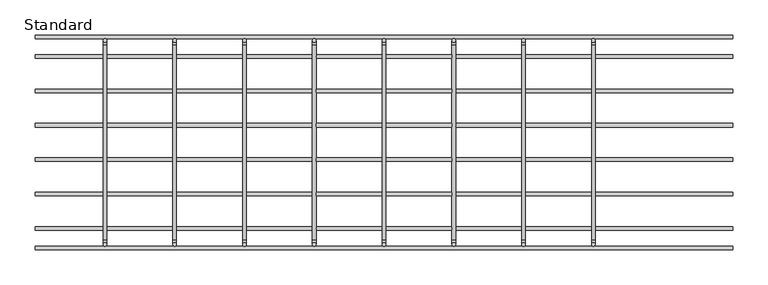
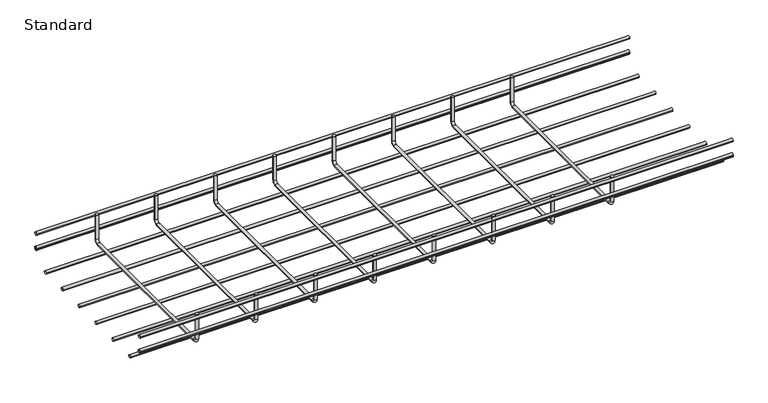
"""IFC4 building model written with IfcOpenShell, lengths in millimetres: cable carrier fitting geometry, CableTray_Atkore-Straight-Length : Standard."""

from ifc_helpers import new_model, si_unit, point, frame, frame_2d, origin, place, context, project, spatial, circle_curve, ellipse_curve, trimmed, segment, composite_curve, outline, extrude, source, transform, mapped, element, save
from ifc_brep_helpers import plane_surface, cylinder_surface, revolved_surface, advanced_brep


def standard_eb973696(model_context):
    return source(origin(), model_context, "Body", "SolidModel", [
        extrude(outline(composite_curve([segment(trimmed(circle_curve(frame_2d((73.4025, -25.9357812)), 2.54), [point((70.8625, -25.9357812))], [point((75.9425, -25.9357812))], False, "CARTESIAN"), True, "CONTINUOUS"), segment(trimmed(circle_curve(frame_2d((73.4025, -25.9357812)), 2.54), [point((75.9425, -25.9357812))], [point((70.8625, -25.9357812))], False, "CARTESIAN"), True, "CONTINUOUS")], self_intersect=False)), frame((0.0, 0.0, 0.0), z_axis=(1.0, 0.0, 0.0), x_axis=(0.0, 1.0, 0.0)), (0.0, 0.0, 1.0), 991.764),
        extrude(outline(composite_curve([segment(trimmed(circle_curve(frame_2d((24.4675, -25.9357812)), 2.54), [point((21.9275, -25.9357812))], [point((27.0075, -25.9357812))], False, "CARTESIAN"), True, "CONTINUOUS"), segment(trimmed(circle_curve(frame_2d((24.4675, -25.9357812)), 2.54), [point((27.0075, -25.9357812))], [point((21.9275, -25.9357812))], False, "CARTESIAN"), True, "CONTINUOUS")], self_intersect=False)), frame((0.0, 0.0, 0.0), z_axis=(1.0, 0.0, 0.0), x_axis=(0.0, 1.0, 0.0)), (0.0, 0.0, 1.0), 991.764),
        extrude(outline(composite_curve([segment(trimmed(circle_curve(frame_2d((-24.4675, -25.9357812)), 2.54), [point((-27.0075, -25.9357812))], [point((-21.9275, -25.9357812))], False, "CARTESIAN"), True, "CONTINUOUS"), segment(trimmed(circle_curve(frame_2d((-24.4675, -25.9357812)), 2.54), [point((-21.9275, -25.9357812))], [point((-27.0075, -25.9357812))], False, "CARTESIAN"), True, "CONTINUOUS")], self_intersect=False)), frame((0.0, 0.0, 0.0), z_axis=(1.0, 0.0, 0.0), x_axis=(0.0, 1.0, 0.0)), (0.0, 0.0, 1.0), 991.764),
        extrude(outline(composite_curve([segment(trimmed(circle_curve(frame_2d((-73.4025, -25.9357812)), 2.54), [point((-75.9425, -25.9357812))], [point((-70.8625, -25.9357812))], False, "CARTESIAN"), True, "CONTINUOUS"), segment(trimmed(circle_curve(frame_2d((-73.4025, -25.9357812)), 2.54), [point((-70.8625, -25.9357812))], [point((-75.9425, -25.9357812))], False, "CARTESIAN"), True, "CONTINUOUS")], self_intersect=False)), frame((0.0, 0.0, 0.0), z_axis=(1.0, 0.0, 0.0), x_axis=(0.0, 1.0, 0.0)), (0.0, 0.0, 1.0), 991.764),
        advanced_brep(
        [(96.6364, -144.88, 28.4757813), (101.7164, -144.88, 28.4757813), (96.6364, -144.88, -14.8133594), (101.7164, -144.88, -14.8133594), (101.7164, -138.8375781, -20.8557812), (96.6364, -138.8375781, -20.8557812), (96.6364, 138.53, -20.8557812), (101.7164, 138.53, -20.8557812), (101.7164, 144.88, -14.5057812), (96.6364, 144.88, -14.5057812), (96.6364, 144.88, 28.4757813), (101.7164, 144.88, 28.4757813)],
        [
            (0, 1, circle_curve(frame((99.1764, -144.88, 28.4757813), z_axis=(0.0, 0.0, 1.0), x_axis=(1.0, 0.0, 0.0)), 2.54)),
            (1, 0, circle_curve(frame((99.1764, -144.88, 28.4757813), z_axis=(0.0, 0.0, 1.0), x_axis=(1.0, 0.0, 0.0)), 2.54)),
            (0, 2),
            (2, 3, circle_curve(frame((99.1764, -144.88, -14.8133594), z_axis=(0.0, 0.0, 1.0), x_axis=(1.0, 0.0, 0.0)), 2.54)),
            (3, 1),
            (3, 2, circle_curve(frame((99.1764, -144.88, -14.8133594), z_axis=(0.0, 0.0, 1.0), x_axis=(1.0, 0.0, 0.0)), 2.54)),
            (4, 3, circle_curve(frame((101.7164, -138.8375781, -14.8133594), z_axis=(-1.0, 0.0, 0.0), x_axis=(0.0, -1.0, 0.0)), 6.0424219)),
            (2, 5, circle_curve(frame((96.6364, -138.8375781, -14.8133594), z_axis=(1.0, 0.0, 0.0), x_axis=(0.0, -1.0, 0.0)), 6.0424219)),
            (5, 4, circle_curve(frame((99.1764, -138.8375781, -20.8557812), z_axis=(0.0, -1.0, 0.0), x_axis=(1.0, 0.0, 0.0)), 2.54)),
            (4, 5, circle_curve(frame((99.1764, -138.8375781, -20.8557812), z_axis=(0.0, -1.0, 0.0), x_axis=(1.0, 0.0, 0.0)), 2.54)),
            (5, 6),
            (6, 7, circle_curve(frame((99.1764, 138.53, -20.8557812), z_axis=(0.0, -1.0, 0.0), x_axis=(1.0, 0.0, 0.0)), 2.54)),
            (7, 4),
            (7, 6, circle_curve(frame((99.1764, 138.53, -20.8557812), z_axis=(0.0, -1.0, 0.0), x_axis=(1.0, 0.0, 0.0)), 2.54)),
            (8, 7, circle_curve(frame((101.7164, 138.53, -14.5057812), z_axis=(-1.0, 0.0, 0.0), x_axis=(0.0, 0.0, -1.0)), 6.35)),
            (6, 9, circle_curve(frame((96.6364, 138.53, -14.5057812), z_axis=(1.0, 0.0, 0.0), x_axis=(0.0, 0.0, -1.0)), 6.35)),
            (9, 8, circle_curve(frame((99.1764, 144.88, -14.5057812), z_axis=(0.0, 0.0, -1.0), x_axis=(1.0, 0.0, 0.0)), 2.54)),
            (8, 9, circle_curve(frame((99.1764, 144.88, -14.5057812), z_axis=(0.0, 0.0, -1.0), x_axis=(1.0, 0.0, 0.0)), 2.54)),
            (10, 11, circle_curve(frame((99.1764, 144.88, 28.4757813), z_axis=(0.0, 0.0, 1.0), x_axis=(1.0, 0.0, 0.0)), 2.54)),
            (11, 10, circle_curve(frame((99.1764, 144.88, 28.4757813), z_axis=(0.0, 0.0, 1.0), x_axis=(1.0, 0.0, 0.0)), 2.54)),
            (9, 10),
            (11, 8),
        ],
        [
            plane_surface(frame((99.1764, -144.88, 28.4757813), z_axis=(0.0, 0.0, 1.0), x_axis=(1.0, 0.0, 0.0))),
            cylinder_surface(frame((99.1764, -144.88, 28.4757813), z_axis=(0.0, 0.0, 1.0), x_axis=(1.0, 0.0, 0.0)), 2.54),
            revolved_surface(trimmed(ellipse_curve(frame((99.1764, -144.88, -14.8133594), z_axis=(0.0, 0.0, 1.0), x_axis=(1.0, 0.0, 0.0)), 2.54, 2.54), [point((96.6364, -144.88, -14.8133594))], [point((101.7164, -144.88, -14.8133594))], True, "CARTESIAN"), (99.1764, -138.8375781, -14.8133594), (1.0, 0.0, 0.0)),
            revolved_surface(trimmed(ellipse_curve(frame((99.1764, -144.88, -14.8133594), z_axis=(0.0, 0.0, 1.0), x_axis=(1.0, 0.0, 0.0)), 2.54, 2.54), [point((101.7164, -144.88, -14.8133594))], [point((96.6364, -144.88, -14.8133594))], True, "CARTESIAN"), (99.1764, -138.8375781, -14.8133594), (1.0, 0.0, 0.0)),
            cylinder_surface(frame((99.1764, -138.8375781, -20.8557812), z_axis=(0.0, -1.0, 0.0), x_axis=(1.0, 0.0, 0.0)), 2.54),
            revolved_surface(trimmed(ellipse_curve(frame((99.1764, 138.53, -20.8557812), z_axis=(0.0, -1.0, 0.0), x_axis=(1.0, 0.0, 0.0)), 2.54, 2.54), [point((96.6364, 138.53, -20.8557812))], [point((101.7164, 138.53, -20.8557812))], True, "CARTESIAN"), (99.1764, 138.53, -14.5057812), (1.0, 0.0, 0.0)),
            revolved_surface(trimmed(ellipse_curve(frame((99.1764, 138.53, -20.8557812), z_axis=(0.0, -1.0, 0.0), x_axis=(1.0, 0.0, 0.0)), 2.54, 2.54), [point((101.7164, 138.53, -20.8557812))], [point((96.6364, 138.53, -20.8557812))], True, "CARTESIAN"), (99.1764, 138.53, -14.5057812), (1.0, 0.0, 0.0)),
            plane_surface(frame((99.1764, 144.88, 28.4757813), z_axis=(0.0, 0.0, 1.0), x_axis=(1.0, 0.0, 0.0))),
            cylinder_surface(frame((99.1764, 144.88, -14.5057812), z_axis=(0.0, 0.0, -1.0), x_axis=(1.0, 0.0, 0.0)), 2.54),
        ],
        [
            (0, [[1, 2]]),
            (1, [[-1, 3, 4, 5]]),
            (1, [[-2, -5, 6, -3]]),
            (2, [[7, -4, 8, 9]]),
            (3, [[-8, -6, -7, 10]]),
            (4, [[-9, 11, 12, 13]]),
            (4, [[-10, -13, 14, -11]]),
            (5, [[15, -12, 16, 17]]),
            (6, [[-16, -14, -15, 18]]),
            (7, [[19, 20]]),
            (8, [[-17, 21, -20, 22]]),
            (8, [[-18, -22, -19, -21]]),
        ],
    ),
        advanced_brep(
        [(195.8128, -144.88, 28.4757813), (200.8928, -144.88, 28.4757813), (195.8128, -144.88, -14.8133594), (200.8928, -144.88, -14.8133594), (200.8928, -138.8375781, -20.8557812), (195.8128, -138.8375781, -20.8557812), (195.8128, 138.53, -20.8557812), (200.8928, 138.53, -20.8557812), (200.8928, 144.88, -14.5057812), (195.8128, 144.88, -14.5057812), (195.8128, 144.88, 28.4757813), (200.8928, 144.88, 28.4757813)],
        [
            (0, 1, circle_curve(frame((198.3528, -144.88, 28.4757813), z_axis=(0.0, 0.0, 1.0), x_axis=(1.0, 0.0, 0.0)), 2.54)),
            (1, 0, circle_curve(frame((198.3528, -144.88, 28.4757813), z_axis=(0.0, 0.0, 1.0), x_axis=(1.0, 0.0, 0.0)), 2.54)),
            (0, 2),
            (2, 3, circle_curve(frame((198.3528, -144.88, -14.8133594), z_axis=(0.0, 0.0, 1.0), x_axis=(1.0, 0.0, 0.0)), 2.54)),
            (3, 1),
            (3, 2, circle_curve(frame((198.3528, -144.88, -14.8133594), z_axis=(0.0, 0.0, 1.0), x_axis=(1.0, 0.0, 0.0)), 2.54)),
            (4, 3, circle_curve(frame((200.8928, -138.8375781, -14.8133594), z_axis=(-1.0, 0.0, 0.0), x_axis=(0.0, -1.0, 0.0)), 6.0424219)),
            (2, 5, circle_curve(frame((195.8128, -138.8375781, -14.8133594), z_axis=(1.0, 0.0, 0.0), x_axis=(0.0, -1.0, 0.0)), 6.0424219)),
            (5, 4, circle_curve(frame((198.3528, -138.8375781, -20.8557812), z_axis=(0.0, -1.0, 0.0), x_axis=(1.0, 0.0, 0.0)), 2.54)),
            (4, 5, circle_curve(frame((198.3528, -138.8375781, -20.8557812), z_axis=(0.0, -1.0, 0.0), x_axis=(1.0, 0.0, 0.0)), 2.54)),
            (5, 6),
            (6, 7, circle_curve(frame((198.3528, 138.53, -20.8557812), z_axis=(0.0, -1.0, 0.0), x_axis=(1.0, 0.0, 0.0)), 2.54)),
            (7, 4),
            (7, 6, circle_curve(frame((198.3528, 138.53, -20.8557812), z_axis=(0.0, -1.0, 0.0), x_axis=(1.0, 0.0, 0.0)), 2.54)),
            (8, 7, circle_curve(frame((200.8928, 138.53, -14.5057812), z_axis=(-1.0, 0.0, 0.0), x_axis=(0.0, 0.0, -1.0)), 6.35)),
            (6, 9, circle_curve(frame((195.8128, 138.53, -14.5057812), z_axis=(1.0, 0.0, 0.0), x_axis=(0.0, 0.0, -1.0)), 6.35)),
            (9, 8, circle_curve(frame((198.3528, 144.88, -14.5057812), z_axis=(0.0, 0.0, -1.0), x_axis=(1.0, 0.0, 0.0)), 2.54)),
            (8, 9, circle_curve(frame((198.3528, 144.88, -14.5057812), z_axis=(0.0, 0.0, -1.0), x_axis=(1.0, 0.0, 0.0)), 2.54)),
            (10, 11, circle_curve(frame((198.3528, 144.88, 28.4757813), z_axis=(0.0, 0.0, 1.0), x_axis=(1.0, 0.0, 0.0)), 2.54)),
            (11, 10, circle_curve(frame((198.3528, 144.88, 28.4757813), z_axis=(0.0, 0.0, 1.0), x_axis=(1.0, 0.0, 0.0)), 2.54)),
            (9, 10),
            (11, 8),
        ],
        [
            plane_surface(frame((198.3528, -144.88, 28.4757813), z_axis=(0.0, 0.0, 1.0), x_axis=(1.0, 0.0, 0.0))),
            cylinder_surface(frame((198.3528, -144.88, 28.4757813), z_axis=(0.0, 0.0, 1.0), x_axis=(1.0, 0.0, 0.0)), 2.54),
            revolved_surface(trimmed(ellipse_curve(frame((198.3528, -144.88, -14.8133594), z_axis=(0.0, 0.0, 1.0), x_axis=(1.0, 0.0, 0.0)), 2.54, 2.54), [point((195.8128, -144.88, -14.8133594))], [point((200.8928, -144.88, -14.8133594))], True, "CARTESIAN"), (198.3528, -138.8375781, -14.8133594), (1.0, 0.0, 0.0)),
            revolved_surface(trimmed(ellipse_curve(frame((198.3528, -144.88, -14.8133594), z_axis=(0.0, 0.0, 1.0), x_axis=(1.0, 0.0, 0.0)), 2.54, 2.54), [point((200.8928, -144.88, -14.8133594))], [point((195.8128, -144.88, -14.8133594))], True, "CARTESIAN"), (198.3528, -138.8375781, -14.8133594), (1.0, 0.0, 0.0)),
            cylinder_surface(frame((198.3528, -138.8375781, -20.8557812), z_axis=(0.0, -1.0, 0.0), x_axis=(1.0, 0.0, 0.0)), 2.54),
            revolved_surface(trimmed(ellipse_curve(frame((198.3528, 138.53, -20.8557812), z_axis=(0.0, -1.0, 0.0), x_axis=(1.0, 0.0, 0.0)), 2.54, 2.54), [point((195.8128, 138.53, -20.8557812))], [point((200.8928, 138.53, -20.8557812))], True, "CARTESIAN"), (198.3528, 138.53, -14.5057812), (1.0, 0.0, 0.0)),
            revolved_surface(trimmed(ellipse_curve(frame((198.3528, 138.53, -20.8557812), z_axis=(0.0, -1.0, 0.0), x_axis=(1.0, 0.0, 0.0)), 2.54, 2.54), [point((200.8928, 138.53, -20.8557812))], [point((195.8128, 138.53, -20.8557812))], True, "CARTESIAN"), (198.3528, 138.53, -14.5057812), (1.0, 0.0, 0.0)),
            plane_surface(frame((198.3528, 144.88, 28.4757813), z_axis=(0.0, 0.0, 1.0), x_axis=(1.0, 0.0, 0.0))),
            cylinder_surface(frame((198.3528, 144.88, -14.5057812), z_axis=(0.0, 0.0, -1.0), x_axis=(1.0, 0.0, 0.0)), 2.54),
        ],
        [
            (0, [[1, 2]]),
            (1, [[-1, 3, 4, 5]]),
            (1, [[-2, -5, 6, -3]]),
            (2, [[7, -4, 8, 9]]),
            (3, [[-8, -6, -7, 10]]),
            (4, [[-9, 11, 12, 13]]),
            (4, [[-10, -13, 14, -11]]),
            (5, [[15, -12, 16, 17]]),
            (6, [[-16, -14, -15, 18]]),
            (7, [[19, 20]]),
            (8, [[-17, 21, -20, 22]]),
            (8, [[-18, -22, -19, -21]]),
        ],
    ),
        advanced_brep(
        [(294.9892, -144.88, 28.4757813), (300.0692, -144.88, 28.4757813), (294.9892, -144.88, -14.8133594), (300.0692, -144.88, -14.8133594), (300.0692, -138.8375781, -20.8557812), (294.9892, -138.8375781, -20.8557812), (294.9892, 138.53, -20.8557812), (300.0692, 138.53, -20.8557812), (300.0692, 144.88, -14.5057812), (294.9892, 144.88, -14.5057812), (294.9892, 144.88, 28.4757813), (300.0692, 144.88, 28.4757813)],
        [
            (0, 1, circle_curve(frame((297.5292, -144.88, 28.4757813), z_axis=(0.0, 0.0, 1.0), x_axis=(1.0, 0.0, 0.0)), 2.54)),
            (1, 0, circle_curve(frame((297.5292, -144.88, 28.4757813), z_axis=(0.0, 0.0, 1.0), x_axis=(1.0, 0.0, 0.0)), 2.54)),
            (0, 2),
            (2, 3, circle_curve(frame((297.5292, -144.88, -14.8133594), z_axis=(0.0, 0.0, 1.0), x_axis=(1.0, 0.0, 0.0)), 2.54)),
            (3, 1),
            (3, 2, circle_curve(frame((297.5292, -144.88, -14.8133594), z_axis=(0.0, 0.0, 1.0), x_axis=(1.0, 0.0, 0.0)), 2.54)),
            (4, 3, circle_curve(frame((300.0692, -138.8375781, -14.8133594), z_axis=(-1.0, 0.0, 0.0), x_axis=(0.0, -1.0, 0.0)), 6.0424219)),
            (2, 5, circle_curve(frame((294.9892, -138.8375781, -14.8133594), z_axis=(1.0, 0.0, 0.0), x_axis=(0.0, -1.0, 0.0)), 6.0424219)),
            (5, 4, circle_curve(frame((297.5292, -138.8375781, -20.8557812), z_axis=(0.0, -1.0, 0.0), x_axis=(1.0, 0.0, 0.0)), 2.54)),
            (4, 5, circle_curve(frame((297.5292, -138.8375781, -20.8557812), z_axis=(0.0, -1.0, 0.0), x_axis=(1.0, 0.0, 0.0)), 2.54)),
            (5, 6),
            (6, 7, circle_curve(frame((297.5292, 138.53, -20.8557812), z_axis=(0.0, -1.0, 0.0), x_axis=(1.0, 0.0, 0.0)), 2.54)),
            (7, 4),
            (7, 6, circle_curve(frame((297.5292, 138.53, -20.8557812), z_axis=(0.0, -1.0, 0.0), x_axis=(1.0, 0.0, 0.0)), 2.54)),
            (8, 7, circle_curve(frame((300.0692, 138.53, -14.5057812), z_axis=(-1.0, 0.0, 0.0), x_axis=(0.0, 0.0, -1.0)), 6.35)),
            (6, 9, circle_curve(frame((294.9892, 138.53, -14.5057812), z_axis=(1.0, 0.0, 0.0), x_axis=(0.0, 0.0, -1.0)), 6.35)),
            (9, 8, circle_curve(frame((297.5292, 144.88, -14.5057812), z_axis=(0.0, 0.0, -1.0), x_axis=(1.0, 0.0, 0.0)), 2.54)),
            (8, 9, circle_curve(frame((297.5292, 144.88, -14.5057812), z_axis=(0.0, 0.0, -1.0), x_axis=(1.0, 0.0, 0.0)), 2.54)),
            (10, 11, circle_curve(frame((297.5292, 144.88, 28.4757813), z_axis=(0.0, 0.0, 1.0), x_axis=(1.0, 0.0, 0.0)), 2.54)),
            (11, 10, circle_curve(frame((297.5292, 144.88, 28.4757813), z_axis=(0.0, 0.0, 1.0), x_axis=(1.0, 0.0, 0.0)), 2.54)),
            (9, 10),
            (11, 8),
        ],
        [
            plane_surface(frame((297.5292, -144.88, 28.4757813), z_axis=(0.0, 0.0, 1.0), x_axis=(1.0, 0.0, 0.0))),
            cylinder_surface(frame((297.5292, -144.88, 28.4757813), z_axis=(0.0, 0.0, 1.0), x_axis=(1.0, 0.0, 0.0)), 2.54),
            revolved_surface(trimmed(ellipse_curve(frame((297.5292, -144.88, -14.8133594), z_axis=(0.0, 0.0, 1.0), x_axis=(1.0, 0.0, 0.0)), 2.54, 2.54), [point((294.9892, -144.88, -14.8133594))], [point((300.0692, -144.88, -14.8133594))], True, "CARTESIAN"), (297.5292, -138.8375781, -14.8133594), (1.0, 0.0, 0.0)),
            revolved_surface(trimmed(ellipse_curve(frame((297.5292, -144.88, -14.8133594), z_axis=(0.0, 0.0, 1.0), x_axis=(1.0, 0.0, 0.0)), 2.54, 2.54), [point((300.0692, -144.88, -14.8133594))], [point((294.9892, -144.88, -14.8133594))], True, "CARTESIAN"), (297.5292, -138.8375781, -14.8133594), (1.0, 0.0, 0.0)),
            cylinder_surface(frame((297.5292, -138.8375781, -20.8557812), z_axis=(0.0, -1.0, 0.0), x_axis=(1.0, 0.0, 0.0)), 2.54),
            revolved_surface(trimmed(ellipse_curve(frame((297.5292, 138.53, -20.8557812), z_axis=(0.0, -1.0, 0.0), x_axis=(1.0, 0.0, 0.0)), 2.54, 2.54), [point((294.9892, 138.53, -20.8557812))], [point((300.0692, 138.53, -20.8557812))], True, "CARTESIAN"), (297.5292, 138.53, -14.5057812), (1.0, 0.0, 0.0)),
            revolved_surface(trimmed(ellipse_curve(frame((297.5292, 138.53, -20.8557812), z_axis=(0.0, -1.0, 0.0), x_axis=(1.0, 0.0, 0.0)), 2.54, 2.54), [point((300.0692, 138.53, -20.8557812))], [point((294.9892, 138.53, -20.8557812))], True, "CARTESIAN"), (297.5292, 138.53, -14.5057812), (1.0, 0.0, 0.0)),
            plane_surface(frame((297.5292, 144.88, 28.4757813), z_axis=(0.0, 0.0, 1.0), x_axis=(1.0, 0.0, 0.0))),
            cylinder_surface(frame((297.5292, 144.88, -14.5057812), z_axis=(0.0, 0.0, -1.0), x_axis=(1.0, 0.0, 0.0)), 2.54),
        ],
        [
            (0, [[1, 2]]),
            (1, [[-1, 3, 4, 5]]),
            (1, [[-2, -5, 6, -3]]),
            (2, [[7, -4, 8, 9]]),
            (3, [[-8, -6, -7, 10]]),
            (4, [[-9, 11, 12, 13]]),
            (4, [[-10, -13, 14, -11]]),
            (5, [[15, -12, 16, 17]]),
            (6, [[-16, -14, -15, 18]]),
            (7, [[19, 20]]),
            (8, [[-17, 21, -20, 22]]),
            (8, [[-18, -22, -19, -21]]),
        ],
    ),
        advanced_brep(
        [(394.1656, -144.88, 28.4757813), (399.2456, -144.88, 28.4757813), (394.1656, -144.88, -14.8133594), (399.2456, -144.88, -14.8133594), (399.2456, -138.8375781, -20.8557812), (394.1656, -138.8375781, -20.8557812), (394.1656, 138.53, -20.8557812), (399.2456, 138.53, -20.8557812), (399.2456, 144.88, -14.5057812), (394.1656, 144.88, -14.5057812), (394.1656, 144.88, 28.4757813), (399.2456, 144.88, 28.4757813)],
        [
            (0, 1, circle_curve(frame((396.7056, -144.88, 28.4757813), z_axis=(0.0, 0.0, 1.0), x_axis=(1.0, 0.0, 0.0)), 2.54)),
            (1, 0, circle_curve(frame((396.7056, -144.88, 28.4757813), z_axis=(0.0, 0.0, 1.0), x_axis=(1.0, 0.0, 0.0)), 2.54)),
            (0, 2),
            (2, 3, circle_curve(frame((396.7056, -144.88, -14.8133594), z_axis=(0.0, 0.0, 1.0), x_axis=(1.0, 0.0, 0.0)), 2.54)),
            (3, 1),
            (3, 2, circle_curve(frame((396.7056, -144.88, -14.8133594), z_axis=(0.0, 0.0, 1.0), x_axis=(1.0, 0.0, 0.0)), 2.54)),
            (4, 3, circle_curve(frame((399.2456, -138.8375781, -14.8133594), z_axis=(-1.0, 0.0, 0.0), x_axis=(0.0, -1.0, 0.0)), 6.0424219)),
            (2, 5, circle_curve(frame((394.1656, -138.8375781, -14.8133594), z_axis=(1.0, 0.0, 0.0), x_axis=(0.0, -1.0, 0.0)), 6.0424219)),
            (5, 4, circle_curve(frame((396.7056, -138.8375781, -20.8557812), z_axis=(0.0, -1.0, 0.0), x_axis=(1.0, 0.0, 0.0)), 2.54)),
            (4, 5, circle_curve(frame((396.7056, -138.8375781, -20.8557812), z_axis=(0.0, -1.0, 0.0), x_axis=(1.0, 0.0, 0.0)), 2.54)),
            (5, 6),
            (6, 7, circle_curve(frame((396.7056, 138.53, -20.8557812), z_axis=(0.0, -1.0, 0.0), x_axis=(1.0, 0.0, 0.0)), 2.54)),
            (7, 4),
            (7, 6, circle_curve(frame((396.7056, 138.53, -20.8557812), z_axis=(0.0, -1.0, 0.0), x_axis=(1.0, 0.0, 0.0)), 2.54)),
            (8, 7, circle_curve(frame((399.2456, 138.53, -14.5057812), z_axis=(-1.0, 0.0, 0.0), x_axis=(0.0, 0.0, -1.0)), 6.35)),
            (6, 9, circle_curve(frame((394.1656, 138.53, -14.5057812), z_axis=(1.0, 0.0, 0.0), x_axis=(0.0, 0.0, -1.0)), 6.35)),
            (9, 8, circle_curve(frame((396.7056, 144.88, -14.5057812), z_axis=(0.0, 0.0, -1.0), x_axis=(1.0, 0.0, 0.0)), 2.54)),
            (8, 9, circle_curve(frame((396.7056, 144.88, -14.5057812), z_axis=(0.0, 0.0, -1.0), x_axis=(1.0, 0.0, 0.0)), 2.54)),
            (10, 11, circle_curve(frame((396.7056, 144.88, 28.4757813), z_axis=(0.0, 0.0, 1.0), x_axis=(1.0, 0.0, 0.0)), 2.54)),
            (11, 10, circle_curve(frame((396.7056, 144.88, 28.4757813), z_axis=(0.0, 0.0, 1.0), x_axis=(1.0, 0.0, 0.0)), 2.54)),
            (9, 10),
            (11, 8),
        ],
        [
            plane_surface(frame((396.7056, -144.88, 28.4757813), z_axis=(0.0, 0.0, 1.0), x_axis=(1.0, 0.0, 0.0))),
            cylinder_surface(frame((396.7056, -144.88, 28.4757813), z_axis=(0.0, 0.0, 1.0), x_axis=(1.0, 0.0, 0.0)), 2.54),
            revolved_surface(trimmed(ellipse_curve(frame((396.7056, -144.88, -14.8133594), z_axis=(0.0, 0.0, 1.0), x_axis=(1.0, 0.0, 0.0)), 2.54, 2.54), [point((394.1656, -144.88, -14.8133594))], [point((399.2456, -144.88, -14.8133594))], True, "CARTESIAN"), (396.7056, -138.8375781, -14.8133594), (1.0, 0.0, 0.0)),
            revolved_surface(trimmed(ellipse_curve(frame((396.7056, -144.88, -14.8133594), z_axis=(0.0, 0.0, 1.0), x_axis=(1.0, 0.0, 0.0)), 2.54, 2.54), [point((399.2456, -144.88, -14.8133594))], [point((394.1656, -144.88, -14.8133594))], True, "CARTESIAN"), (396.7056, -138.8375781, -14.8133594), (1.0, 0.0, 0.0)),
            cylinder_surface(frame((396.7056, -138.8375781, -20.8557812), z_axis=(0.0, -1.0, 0.0), x_axis=(1.0, 0.0, 0.0)), 2.54),
            revolved_surface(trimmed(ellipse_curve(frame((396.7056, 138.53, -20.8557812), z_axis=(0.0, -1.0, 0.0), x_axis=(1.0, 0.0, 0.0)), 2.54, 2.54), [point((394.1656, 138.53, -20.8557812))], [point((399.2456, 138.53, -20.8557812))], True, "CARTESIAN"), (396.7056, 138.53, -14.5057812), (1.0, 0.0, 0.0)),
            revolved_surface(trimmed(ellipse_curve(frame((396.7056, 138.53, -20.8557812), z_axis=(0.0, -1.0, 0.0), x_axis=(1.0, 0.0, 0.0)), 2.54, 2.54), [point((399.2456, 138.53, -20.8557812))], [point((394.1656, 138.53, -20.8557812))], True, "CARTESIAN"), (396.7056, 138.53, -14.5057812), (1.0, 0.0, 0.0)),
            plane_surface(frame((396.7056, 144.88, 28.4757813), z_axis=(0.0, 0.0, 1.0), x_axis=(1.0, 0.0, 0.0))),
            cylinder_surface(frame((396.7056, 144.88, -14.5057812), z_axis=(0.0, 0.0, -1.0), x_axis=(1.0, 0.0, 0.0)), 2.54),
        ],
        [
            (0, [[1, 2]]),
            (1, [[-1, 3, 4, 5]]),
            (1, [[-2, -5, 6, -3]]),
            (2, [[7, -4, 8, 9]]),
            (3, [[-8, -6, -7, 10]]),
            (4, [[-9, 11, 12, 13]]),
            (4, [[-10, -13, 14, -11]]),
            (5, [[15, -12, 16, 17]]),
            (6, [[-16, -14, -15, 18]]),
            (7, [[19, 20]]),
            (8, [[-17, 21, -20, 22]]),
            (8, [[-18, -22, -19, -21]]),
        ],
    ),
        extrude(outline(composite_curve([segment(trimmed(circle_curve(frame_2d((149.96, 0.681454)), 2.54), [point((152.5, 0.681454))], [point((147.42, 0.681454))], False, "CARTESIAN"), True, "CONTINUOUS"), segment(trimmed(circle_curve(frame_2d((149.96, 0.681454)), 2.54), [point((147.42, 0.681454))], [point((152.5, 0.681454))], False, "CARTESIAN"), True, "CONTINUOUS")], self_intersect=False)), frame((0.0, 0.0, 0.0), z_axis=(1.0, 0.0, 0.0), x_axis=(0.0, 1.0, 0.0)), (0.0, 0.0, 1.0), 991.764),
        extrude(outline(composite_curve([segment(trimmed(circle_curve(frame_2d((149.96, -1.0517187)), 2.54), [point((152.5, -1.0517187))], [point((147.42, -1.0517187))], False, "CARTESIAN"), True, "CONTINUOUS"), segment(trimmed(circle_curve(frame_2d((149.96, -1.0517187)), 2.54), [point((147.42, -1.0517187))], [point((152.5, -1.0517187))], False, "CARTESIAN"), True, "CONTINUOUS")], self_intersect=False)), frame((0.0, 0.0, 0.0), z_axis=(1.0, 0.0, 0.0), x_axis=(0.0, 1.0, 0.0)), (0.0, 0.0, 1.0), 991.764),
        extrude(outline(composite_curve([segment(trimmed(circle_curve(frame_2d((-149.96, -1.0517187)), 2.54), [point((-152.5, -1.0517187))], [point((-147.42, -1.0517187))], False, "CARTESIAN"), True, "CONTINUOUS"), segment(trimmed(circle_curve(frame_2d((-149.96, -1.0517187)), 2.54), [point((-147.42, -1.0517187))], [point((-152.5, -1.0517187))], False, "CARTESIAN"), True, "CONTINUOUS")], self_intersect=False)), frame((0.0, 0.0, 0.0), z_axis=(1.0, 0.0, 0.0), x_axis=(0.0, 1.0, 0.0)), (0.0, 0.0, 1.0), 991.764),
        extrude(outline(composite_curve([segment(trimmed(circle_curve(frame_2d((-149.96, 0.681454)), 2.54), [point((-152.5, 0.681454))], [point((-147.42, 0.681454))], False, "CARTESIAN"), True, "CONTINUOUS"), segment(trimmed(circle_curve(frame_2d((-149.96, 0.681454)), 2.54), [point((-147.42, 0.681454))], [point((-152.5, 0.681454))], False, "CARTESIAN"), True, "CONTINUOUS")], self_intersect=False)), frame((0.0, 0.0, 0.0), z_axis=(1.0, 0.0, 0.0), x_axis=(0.0, 1.0, 0.0)), (0.0, 0.0, 1.0), 991.764),
        extrude(outline(composite_curve([segment(trimmed(circle_curve(frame_2d((122.3375, -25.9357812)), 2.54), [point((119.7975, -25.9357812))], [point((124.8775, -25.9357812))], False, "CARTESIAN"), True, "CONTINUOUS"), segment(trimmed(circle_curve(frame_2d((122.3375, -25.9357812)), 2.54), [point((124.8775, -25.9357812))], [point((119.7975, -25.9357812))], False, "CARTESIAN"), True, "CONTINUOUS")], self_intersect=False)), frame((0.0, 0.0, 0.0), z_axis=(1.0, 0.0, 0.0), x_axis=(0.0, 1.0, 0.0)), (0.0, 0.0, 1.0), 991.764),
        advanced_brep(
        [(493.342, -144.88, 28.4757813), (498.422, -144.88, 28.4757813), (493.342, -144.88, -14.8133594), (498.422, -144.88, -14.8133594), (498.422, -138.8375781, -20.8557812), (493.342, -138.8375781, -20.8557812), (493.342, 138.53, -20.8557812), (498.422, 138.53, -20.8557812), (498.422, 144.88, -14.5057812), (493.342, 144.88, -14.5057812), (493.342, 144.88, 28.4757813), (498.422, 144.88, 28.4757813)],
        [
            (0, 1, circle_curve(frame((495.882, -144.88, 28.4757813), z_axis=(0.0, 0.0, 1.0), x_axis=(1.0, 0.0, 0.0)), 2.54)),
            (1, 0, circle_curve(frame((495.882, -144.88, 28.4757813), z_axis=(0.0, 0.0, 1.0), x_axis=(1.0, 0.0, 0.0)), 2.54)),
            (0, 2),
            (2, 3, circle_curve(frame((495.882, -144.88, -14.8133594), z_axis=(0.0, 0.0, 1.0), x_axis=(1.0, 0.0, 0.0)), 2.54)),
            (3, 1),
            (3, 2, circle_curve(frame((495.882, -144.88, -14.8133594), z_axis=(0.0, 0.0, 1.0), x_axis=(1.0, 0.0, 0.0)), 2.54)),
            (4, 3, circle_curve(frame((498.422, -138.8375781, -14.8133594), z_axis=(-1.0, 0.0, 0.0), x_axis=(0.0, -1.0, 0.0)), 6.0424219)),
            (2, 5, circle_curve(frame((493.342, -138.8375781, -14.8133594), z_axis=(1.0, 0.0, 0.0), x_axis=(0.0, -1.0, 0.0)), 6.0424219)),
            (5, 4, circle_curve(frame((495.882, -138.8375781, -20.8557812), z_axis=(0.0, -1.0, 0.0), x_axis=(1.0, 0.0, 0.0)), 2.54)),
            (4, 5, circle_curve(frame((495.882, -138.8375781, -20.8557812), z_axis=(0.0, -1.0, 0.0), x_axis=(1.0, 0.0, 0.0)), 2.54)),
            (5, 6),
            (6, 7, circle_curve(frame((495.882, 138.53, -20.8557812), z_axis=(0.0, -1.0, 0.0), x_axis=(1.0, 0.0, 0.0)), 2.54)),
            (7, 4),
            (7, 6, circle_curve(frame((495.882, 138.53, -20.8557812), z_axis=(0.0, -1.0, 0.0), x_axis=(1.0, 0.0, 0.0)), 2.54)),
            (8, 7, circle_curve(frame((498.422, 138.53, -14.5057812), z_axis=(-1.0, 0.0, 0.0), x_axis=(0.0, 0.0, -1.0)), 6.35)),
            (6, 9, circle_curve(frame((493.342, 138.53, -14.5057812), z_axis=(1.0, 0.0, 0.0), x_axis=(0.0, 0.0, -1.0)), 6.35)),
            (9, 8, circle_curve(frame((495.882, 144.88, -14.5057812), z_axis=(0.0, 0.0, -1.0), x_axis=(1.0, 0.0, 0.0)), 2.54)),
            (8, 9, circle_curve(frame((495.882, 144.88, -14.5057812), z_axis=(0.0, 0.0, -1.0), x_axis=(1.0, 0.0, 0.0)), 2.54)),
            (10, 11, circle_curve(frame((495.882, 144.88, 28.4757813), z_axis=(0.0, 0.0, 1.0), x_axis=(1.0, 0.0, 0.0)), 2.54)),
            (11, 10, circle_curve(frame((495.882, 144.88, 28.4757813), z_axis=(0.0, 0.0, 1.0), x_axis=(1.0, 0.0, 0.0)), 2.54)),
            (9, 10),
            (11, 8),
        ],
        [
            plane_surface(frame((495.882, -144.88, 28.4757813), z_axis=(0.0, 0.0, 1.0), x_axis=(1.0, 0.0, 0.0))),
            cylinder_surface(frame((495.882, -144.88, 28.4757813), z_axis=(0.0, 0.0, 1.0), x_axis=(1.0, 0.0, 0.0)), 2.54),
            revolved_surface(trimmed(ellipse_curve(frame((495.882, -144.88, -14.8133594), z_axis=(0.0, 0.0, 1.0), x_axis=(1.0, 0.0, 0.0)), 2.54, 2.54), [point((493.342, -144.88, -14.8133594))], [point((498.422, -144.88, -14.8133594))], True, "CARTESIAN"), (495.882, -138.8375781, -14.8133594), (1.0, 0.0, 0.0)),
            revolved_surface(trimmed(ellipse_curve(frame((495.882, -144.88, -14.8133594), z_axis=(0.0, 0.0, 1.0), x_axis=(1.0, 0.0, 0.0)), 2.54, 2.54), [point((498.422, -144.88, -14.8133594))], [point((493.342, -144.88, -14.8133594))], True, "CARTESIAN"), (495.882, -138.8375781, -14.8133594), (1.0, 0.0, 0.0)),
            cylinder_surface(frame((495.882, -138.8375781, -20.8557812), z_axis=(0.0, -1.0, 0.0), x_axis=(1.0, 0.0, 0.0)), 2.54),
            revolved_surface(trimmed(ellipse_curve(frame((495.882, 138.53, -20.8557812), z_axis=(0.0, -1.0, 0.0), x_axis=(1.0, 0.0, 0.0)), 2.54, 2.54), [point((493.342, 138.53, -20.8557812))], [point((498.422, 138.53, -20.8557812))], True, "CARTESIAN"), (495.882, 138.53, -14.5057812), (1.0, 0.0, 0.0)),
            revolved_surface(trimmed(ellipse_curve(frame((495.882, 138.53, -20.8557812), z_axis=(0.0, -1.0, 0.0), x_axis=(1.0, 0.0, 0.0)), 2.54, 2.54), [point((498.422, 138.53, -20.8557812))], [point((493.342, 138.53, -20.8557812))], True, "CARTESIAN"), (495.882, 138.53, -14.5057812), (1.0, 0.0, 0.0)),
            plane_surface(frame((495.882, 144.88, 28.4757813), z_axis=(0.0, 0.0, 1.0), x_axis=(1.0, 0.0, 0.0))),
            cylinder_surface(frame((495.882, 144.88, -14.5057812), z_axis=(0.0, 0.0, -1.0), x_axis=(1.0, 0.0, 0.0)), 2.54),
        ],
        [
            (0, [[1, 2]]),
            (1, [[-1, 3, 4, 5]]),
            (1, [[-2, -5, 6, -3]]),
            (2, [[7, -4, 8, 9]]),
            (3, [[-8, -6, -7, 10]]),
            (4, [[-9, 11, 12, 13]]),
            (4, [[-10, -13, 14, -11]]),
            (5, [[15, -12, 16, 17]]),
            (6, [[-16, -14, -15, 18]]),
            (7, [[19, 20]]),
            (8, [[-17, 21, -20, 22]]),
            (8, [[-18, -22, -19, -21]]),
        ],
    ),
        advanced_brep(
        [(592.5184, -144.88, 28.4757813), (597.5984, -144.88, 28.4757813), (592.5184, -144.88, -14.8133594), (597.5984, -144.88, -14.8133594), (597.5984, -138.8375781, -20.8557812), (592.5184, -138.8375781, -20.8557812), (592.5184, 138.53, -20.8557812), (597.5984, 138.53, -20.8557812), (597.5984, 144.88, -14.5057812), (592.5184, 144.88, -14.5057812), (592.5184, 144.88, 28.4757813), (597.5984, 144.88, 28.4757813)],
        [
            (0, 1, circle_curve(frame((595.0584, -144.88, 28.4757813), z_axis=(0.0, 0.0, 1.0), x_axis=(1.0, 0.0, 0.0)), 2.54)),
            (1, 0, circle_curve(frame((595.0584, -144.88, 28.4757813), z_axis=(0.0, 0.0, 1.0), x_axis=(1.0, 0.0, 0.0)), 2.54)),
            (0, 2),
            (2, 3, circle_curve(frame((595.0584, -144.88, -14.8133594), z_axis=(0.0, 0.0, 1.0), x_axis=(1.0, 0.0, 0.0)), 2.54)),
            (3, 1),
            (3, 2, circle_curve(frame((595.0584, -144.88, -14.8133594), z_axis=(0.0, 0.0, 1.0), x_axis=(1.0, 0.0, 0.0)), 2.54)),
            (4, 3, circle_curve(frame((597.5984, -138.8375781, -14.8133594), z_axis=(-1.0, 0.0, 0.0), x_axis=(0.0, -1.0, 0.0)), 6.0424219)),
            (2, 5, circle_curve(frame((592.5184, -138.8375781, -14.8133594), z_axis=(1.0, 0.0, 0.0), x_axis=(0.0, -1.0, 0.0)), 6.0424219)),
            (5, 4, circle_curve(frame((595.0584, -138.8375781, -20.8557812), z_axis=(0.0, -1.0, 0.0), x_axis=(1.0, 0.0, 0.0)), 2.54)),
            (4, 5, circle_curve(frame((595.0584, -138.8375781, -20.8557812), z_axis=(0.0, -1.0, 0.0), x_axis=(1.0, 0.0, 0.0)), 2.54)),
            (5, 6),
            (6, 7, circle_curve(frame((595.0584, 138.53, -20.8557812), z_axis=(0.0, -1.0, 0.0), x_axis=(1.0, 0.0, 0.0)), 2.54)),
            (7, 4),
            (7, 6, circle_curve(frame((595.0584, 138.53, -20.8557812), z_axis=(0.0, -1.0, 0.0), x_axis=(1.0, 0.0, 0.0)), 2.54)),
            (8, 7, circle_curve(frame((597.5984, 138.53, -14.5057812), z_axis=(-1.0, 0.0, 0.0), x_axis=(0.0, 0.0, -1.0)), 6.35)),
            (6, 9, circle_curve(frame((592.5184, 138.53, -14.5057812), z_axis=(1.0, 0.0, 0.0), x_axis=(0.0, 0.0, -1.0)), 6.35)),
            (9, 8, circle_curve(frame((595.0584, 144.88, -14.5057812), z_axis=(0.0, 0.0, -1.0), x_axis=(1.0, 0.0, 0.0)), 2.54)),
            (8, 9, circle_curve(frame((595.0584, 144.88, -14.5057812), z_axis=(0.0, 0.0, -1.0), x_axis=(1.0, 0.0, 0.0)), 2.54)),
            (10, 11, circle_curve(frame((595.0584, 144.88, 28.4757813), z_axis=(0.0, 0.0, 1.0), x_axis=(1.0, 0.0, 0.0)), 2.54)),
            (11, 10, circle_curve(frame((595.0584, 144.88, 28.4757813), z_axis=(0.0, 0.0, 1.0), x_axis=(1.0, 0.0, 0.0)), 2.54)),
            (9, 10),
            (11, 8),
        ],
        [
            plane_surface(frame((595.0584, -144.88, 28.4757813), z_axis=(0.0, 0.0, 1.0), x_axis=(1.0, 0.0, 0.0))),
            cylinder_surface(frame((595.0584, -144.88, 28.4757813), z_axis=(0.0, 0.0, 1.0), x_axis=(1.0, 0.0, 0.0)), 2.54),
            revolved_surface(trimmed(ellipse_curve(frame((595.0584, -144.88, -14.8133594), z_axis=(0.0, 0.0, 1.0), x_axis=(1.0, 0.0, 0.0)), 2.54, 2.54), [point((592.5184, -144.88, -14.8133594))], [point((597.5984, -144.88, -14.8133594))], True, "CARTESIAN"), (595.0584, -138.8375781, -14.8133594), (1.0, 0.0, 0.0)),
            revolved_surface(trimmed(ellipse_curve(frame((595.0584, -144.88, -14.8133594), z_axis=(0.0, 0.0, 1.0), x_axis=(1.0, 0.0, 0.0)), 2.54, 2.54), [point((597.5984, -144.88, -14.8133594))], [point((592.5184, -144.88, -14.8133594))], True, "CARTESIAN"), (595.0584, -138.8375781, -14.8133594), (1.0, 0.0, 0.0)),
            cylinder_surface(frame((595.0584, -138.8375781, -20.8557812), z_axis=(0.0, -1.0, 0.0), x_axis=(1.0, 0.0, 0.0)), 2.54),
            revolved_surface(trimmed(ellipse_curve(frame((595.0584, 138.53, -20.8557812), z_axis=(0.0, -1.0, 0.0), x_axis=(1.0, 0.0, 0.0)), 2.54, 2.54), [point((592.5184, 138.53, -20.8557812))], [point((597.5984, 138.53, -20.8557812))], True, "CARTESIAN"), (595.0584, 138.53, -14.5057812), (1.0, 0.0, 0.0)),
            revolved_surface(trimmed(ellipse_curve(frame((595.0584, 138.53, -20.8557812), z_axis=(0.0, -1.0, 0.0), x_axis=(1.0, 0.0, 0.0)), 2.54, 2.54), [point((597.5984, 138.53, -20.8557812))], [point((592.5184, 138.53, -20.8557812))], True, "CARTESIAN"), (595.0584, 138.53, -14.5057812), (1.0, 0.0, 0.0)),
            plane_surface(frame((595.0584, 144.88, 28.4757813), z_axis=(0.0, 0.0, 1.0), x_axis=(1.0, 0.0, 0.0))),
            cylinder_surface(frame((595.0584, 144.88, -14.5057812), z_axis=(0.0, 0.0, -1.0), x_axis=(1.0, 0.0, 0.0)), 2.54),
        ],
        [
            (0, [[1, 2]]),
            (1, [[-1, 3, 4, 5]]),
            (1, [[-2, -5, 6, -3]]),
            (2, [[7, -4, 8, 9]]),
            (3, [[-8, -6, -7, 10]]),
            (4, [[-9, 11, 12, 13]]),
            (4, [[-10, -13, 14, -11]]),
            (5, [[15, -12, 16, 17]]),
            (6, [[-16, -14, -15, 18]]),
            (7, [[19, 20]]),
            (8, [[-17, 21, -20, 22]]),
            (8, [[-18, -22, -19, -21]]),
        ],
    ),
        advanced_brep(
        [(691.6948, -144.88, 28.4757813), (696.7748, -144.88, 28.4757813), (691.6948, -144.88, -14.8133594), (696.7748, -144.88, -14.8133594), (696.7748, -138.8375781, -20.8557812), (691.6948, -138.8375781, -20.8557812), (691.6948, 138.53, -20.8557812), (696.7748, 138.53, -20.8557812), (696.7748, 144.88, -14.5057812), (691.6948, 144.88, -14.5057812), (691.6948, 144.88, 28.4757813), (696.7748, 144.88, 28.4757813)],
        [
            (0, 1, circle_curve(frame((694.2348, -144.88, 28.4757813), z_axis=(0.0, 0.0, 1.0), x_axis=(1.0, 0.0, 0.0)), 2.54)),
            (1, 0, circle_curve(frame((694.2348, -144.88, 28.4757813), z_axis=(0.0, 0.0, 1.0), x_axis=(1.0, 0.0, 0.0)), 2.54)),
            (0, 2),
            (2, 3, circle_curve(frame((694.2348, -144.88, -14.8133594), z_axis=(0.0, 0.0, 1.0), x_axis=(1.0, 0.0, 0.0)), 2.54)),
            (3, 1),
            (3, 2, circle_curve(frame((694.2348, -144.88, -14.8133594), z_axis=(0.0, 0.0, 1.0), x_axis=(1.0, 0.0, 0.0)), 2.54)),
            (4, 3, circle_curve(frame((696.7748, -138.8375781, -14.8133594), z_axis=(-1.0, 0.0, 0.0), x_axis=(0.0, -1.0, 0.0)), 6.0424219)),
            (2, 5, circle_curve(frame((691.6948, -138.8375781, -14.8133594), z_axis=(1.0, 0.0, 0.0), x_axis=(0.0, -1.0, 0.0)), 6.0424219)),
            (5, 4, circle_curve(frame((694.2348, -138.8375781, -20.8557812), z_axis=(0.0, -1.0, 0.0), x_axis=(1.0, 0.0, 0.0)), 2.54)),
            (4, 5, circle_curve(frame((694.2348, -138.8375781, -20.8557812), z_axis=(0.0, -1.0, 0.0), x_axis=(1.0, 0.0, 0.0)), 2.54)),
            (5, 6),
            (6, 7, circle_curve(frame((694.2348, 138.53, -20.8557812), z_axis=(0.0, -1.0, 0.0), x_axis=(1.0, 0.0, 0.0)), 2.54)),
            (7, 4),
            (7, 6, circle_curve(frame((694.2348, 138.53, -20.8557812), z_axis=(0.0, -1.0, 0.0), x_axis=(1.0, 0.0, 0.0)), 2.54)),
            (8, 7, circle_curve(frame((696.7748, 138.53, -14.5057812), z_axis=(-1.0, 0.0, 0.0), x_axis=(0.0, 0.0, -1.0)), 6.35)),
            (6, 9, circle_curve(frame((691.6948, 138.53, -14.5057812), z_axis=(1.0, 0.0, 0.0), x_axis=(0.0, 0.0, -1.0)), 6.35)),
            (9, 8, circle_curve(frame((694.2348, 144.88, -14.5057812), z_axis=(0.0, 0.0, -1.0), x_axis=(1.0, 0.0, 0.0)), 2.54)),
            (8, 9, circle_curve(frame((694.2348, 144.88, -14.5057812), z_axis=(0.0, 0.0, -1.0), x_axis=(1.0, 0.0, 0.0)), 2.54)),
            (10, 11, circle_curve(frame((694.2348, 144.88, 28.4757813), z_axis=(0.0, 0.0, 1.0), x_axis=(1.0, 0.0, 0.0)), 2.54)),
            (11, 10, circle_curve(frame((694.2348, 144.88, 28.4757813), z_axis=(0.0, 0.0, 1.0), x_axis=(1.0, 0.0, 0.0)), 2.54)),
            (9, 10),
            (11, 8),
        ],
        [
            plane_surface(frame((694.2348, -144.88, 28.4757813), z_axis=(0.0, 0.0, 1.0), x_axis=(1.0, 0.0, 0.0))),
            cylinder_surface(frame((694.2348, -144.88, 28.4757813), z_axis=(0.0, 0.0, 1.0), x_axis=(1.0, 0.0, 0.0)), 2.54),
            revolved_surface(trimmed(ellipse_curve(frame((694.2348, -144.88, -14.8133594), z_axis=(0.0, 0.0, 1.0), x_axis=(1.0, 0.0, 0.0)), 2.54, 2.54), [point((691.6948, -144.88, -14.8133594))], [point((696.7748, -144.88, -14.8133594))], True, "CARTESIAN"), (694.2348, -138.8375781, -14.8133594), (1.0, 0.0, 0.0)),
            revolved_surface(trimmed(ellipse_curve(frame((694.2348, -144.88, -14.8133594), z_axis=(0.0, 0.0, 1.0), x_axis=(1.0, 0.0, 0.0)), 2.54, 2.54), [point((696.7748, -144.88, -14.8133594))], [point((691.6948, -144.88, -14.8133594))], True, "CARTESIAN"), (694.2348, -138.8375781, -14.8133594), (1.0, 0.0, 0.0)),
            cylinder_surface(frame((694.2348, -138.8375781, -20.8557812), z_axis=(0.0, -1.0, 0.0), x_axis=(1.0, 0.0, 0.0)), 2.54),
            revolved_surface(trimmed(ellipse_curve(frame((694.2348, 138.53, -20.8557812), z_axis=(0.0, -1.0, 0.0), x_axis=(1.0, 0.0, 0.0)), 2.54, 2.54), [point((691.6948, 138.53, -20.8557812))], [point((696.7748, 138.53, -20.8557812))], True, "CARTESIAN"), (694.2348, 138.53, -14.5057812), (1.0, 0.0, 0.0)),
            revolved_surface(trimmed(ellipse_curve(frame((694.2348, 138.53, -20.8557812), z_axis=(0.0, -1.0, 0.0), x_axis=(1.0, 0.0, 0.0)), 2.54, 2.54), [point((696.7748, 138.53, -20.8557812))], [point((691.6948, 138.53, -20.8557812))], True, "CARTESIAN"), (694.2348, 138.53, -14.5057812), (1.0, 0.0, 0.0)),
            plane_surface(frame((694.2348, 144.88, 28.4757813), z_axis=(0.0, 0.0, 1.0), x_axis=(1.0, 0.0, 0.0))),
            cylinder_surface(frame((694.2348, 144.88, -14.5057812), z_axis=(0.0, 0.0, -1.0), x_axis=(1.0, 0.0, 0.0)), 2.54),
        ],
        [
            (0, [[1, 2]]),
            (1, [[-1, 3, 4, 5]]),
            (1, [[-2, -5, 6, -3]]),
            (2, [[7, -4, 8, 9]]),
            (3, [[-8, -6, -7, 10]]),
            (4, [[-9, 11, 12, 13]]),
            (4, [[-10, -13, 14, -11]]),
            (5, [[15, -12, 16, 17]]),
            (6, [[-16, -14, -15, 18]]),
            (7, [[19, 20]]),
            (8, [[-17, 21, -20, 22]]),
            (8, [[-18, -22, -19, -21]]),
        ],
    ),
        extrude(outline(composite_curve([segment(trimmed(circle_curve(frame_2d((-122.3375, -25.9357812)), 2.54), [point((-124.8775, -25.9357812))], [point((-119.7975, -25.9357812))], False, "CARTESIAN"), True, "CONTINUOUS"), segment(trimmed(circle_curve(frame_2d((-122.3375, -25.9357812)), 2.54), [point((-119.7975, -25.9357812))], [point((-124.8775, -25.9357812))], False, "CARTESIAN"), True, "CONTINUOUS")], self_intersect=False)), frame((0.0, 0.0, 0.0), z_axis=(1.0, 0.0, 0.0), x_axis=(0.0, 1.0, 0.0)), (0.0, 0.0, 1.0), 991.764),
        extrude(outline(composite_curve([segment(trimmed(circle_curve(frame_2d((-149.96, 25.9357813)), 2.54), [point((-152.5, 25.9357813))], [point((-147.42, 25.9357813))], False, "CARTESIAN"), True, "CONTINUOUS"), segment(trimmed(circle_curve(frame_2d((-149.96, 25.9357813)), 2.54), [point((-147.42, 25.9357813))], [point((-152.5, 25.9357813))], False, "CARTESIAN"), True, "CONTINUOUS")], self_intersect=False)), frame((0.0, 0.0, 0.0), z_axis=(1.0, 0.0, 0.0), x_axis=(0.0, 1.0, 0.0)), (0.0, 0.0, 1.0), 991.764),
        extrude(outline(composite_curve([segment(trimmed(circle_curve(frame_2d((149.96, 25.9357813)), 2.54), [point((147.42, 25.9357813))], [point((152.5, 25.9357813))], False, "CARTESIAN"), True, "CONTINUOUS"), segment(trimmed(circle_curve(frame_2d((149.96, 25.9357813)), 2.54), [point((152.5, 25.9357813))], [point((147.42, 25.9357813))], False, "CARTESIAN"), True, "CONTINUOUS")], self_intersect=False)), frame((0.0, 0.0, 0.0), z_axis=(1.0, 0.0, 0.0), x_axis=(0.0, 1.0, 0.0)), (0.0, 0.0, 1.0), 991.764),
        advanced_brep(
        [(790.8712, -144.88, 28.4757813), (795.9512, -144.88, 28.4757813), (790.8712, -144.88, -14.8133594), (795.9512, -144.88, -14.8133594), (795.9512, -138.8375781, -20.8557812), (790.8712, -138.8375781, -20.8557812), (790.8712, 138.53, -20.8557812), (795.9512, 138.53, -20.8557812), (795.9512, 144.88, -14.5057812), (790.8712, 144.88, -14.5057812), (790.8712, 144.88, 28.4757813), (795.9512, 144.88, 28.4757813)],
        [
            (0, 1, circle_curve(frame((793.4112, -144.88, 28.4757813), z_axis=(0.0, 0.0, 1.0), x_axis=(1.0, 0.0, 0.0)), 2.54)),
            (1, 0, circle_curve(frame((793.4112, -144.88, 28.4757813), z_axis=(0.0, 0.0, 1.0), x_axis=(1.0, 0.0, 0.0)), 2.54)),
            (0, 2),
            (2, 3, circle_curve(frame((793.4112, -144.88, -14.8133594), z_axis=(0.0, 0.0, 1.0), x_axis=(1.0, 0.0, 0.0)), 2.54)),
            (3, 1),
            (3, 2, circle_curve(frame((793.4112, -144.88, -14.8133594), z_axis=(0.0, 0.0, 1.0), x_axis=(1.0, 0.0, 0.0)), 2.54)),
            (4, 3, circle_curve(frame((795.9512, -138.8375781, -14.8133594), z_axis=(-1.0, 0.0, 0.0), x_axis=(0.0, -1.0, 0.0)), 6.0424219)),
            (2, 5, circle_curve(frame((790.8712, -138.8375781, -14.8133594), z_axis=(1.0, 0.0, 0.0), x_axis=(0.0, -1.0, 0.0)), 6.0424219)),
            (5, 4, circle_curve(frame((793.4112, -138.8375781, -20.8557812), z_axis=(0.0, -1.0, 0.0), x_axis=(1.0, 0.0, 0.0)), 2.54)),
            (4, 5, circle_curve(frame((793.4112, -138.8375781, -20.8557812), z_axis=(0.0, -1.0, 0.0), x_axis=(1.0, 0.0, 0.0)), 2.54)),
            (5, 6),
            (6, 7, circle_curve(frame((793.4112, 138.53, -20.8557812), z_axis=(0.0, -1.0, 0.0), x_axis=(1.0, 0.0, 0.0)), 2.54)),
            (7, 4),
            (7, 6, circle_curve(frame((793.4112, 138.53, -20.8557812), z_axis=(0.0, -1.0, 0.0), x_axis=(1.0, 0.0, 0.0)), 2.54)),
            (8, 7, circle_curve(frame((795.9512, 138.53, -14.5057812), z_axis=(-1.0, 0.0, 0.0), x_axis=(0.0, 0.0, -1.0)), 6.35)),
            (6, 9, circle_curve(frame((790.8712, 138.53, -14.5057812), z_axis=(1.0, 0.0, 0.0), x_axis=(0.0, 0.0, -1.0)), 6.35)),
            (9, 8, circle_curve(frame((793.4112, 144.88, -14.5057812), z_axis=(0.0, 0.0, -1.0), x_axis=(1.0, 0.0, 0.0)), 2.54)),
            (8, 9, circle_curve(frame((793.4112, 144.88, -14.5057812), z_axis=(0.0, 0.0, -1.0), x_axis=(1.0, 0.0, 0.0)), 2.54)),
            (10, 11, circle_curve(frame((793.4112, 144.88, 28.4757813), z_axis=(0.0, 0.0, 1.0), x_axis=(1.0, 0.0, 0.0)), 2.54)),
            (11, 10, circle_curve(frame((793.4112, 144.88, 28.4757813), z_axis=(0.0, 0.0, 1.0), x_axis=(1.0, 0.0, 0.0)), 2.54)),
            (9, 10),
            (11, 8),
        ],
        [
            plane_surface(frame((793.4112, -144.88, 28.4757813), z_axis=(0.0, 0.0, 1.0), x_axis=(1.0, 0.0, 0.0))),
            cylinder_surface(frame((793.4112, -144.88, 28.4757813), z_axis=(0.0, 0.0, 1.0), x_axis=(1.0, 0.0, 0.0)), 2.54),
            revolved_surface(trimmed(ellipse_curve(frame((793.4112, -144.88, -14.8133594), z_axis=(0.0, 0.0, 1.0), x_axis=(1.0, 0.0, 0.0)), 2.54, 2.54), [point((790.8712, -144.88, -14.8133594))], [point((795.9512, -144.88, -14.8133594))], True, "CARTESIAN"), (793.4112, -138.8375781, -14.8133594), (1.0, 0.0, 0.0)),
            revolved_surface(trimmed(ellipse_curve(frame((793.4112, -144.88, -14.8133594), z_axis=(0.0, 0.0, 1.0), x_axis=(1.0, 0.0, 0.0)), 2.54, 2.54), [point((795.9512, -144.88, -14.8133594))], [point((790.8712, -144.88, -14.8133594))], True, "CARTESIAN"), (793.4112, -138.8375781, -14.8133594), (1.0, 0.0, 0.0)),
            cylinder_surface(frame((793.4112, -138.8375781, -20.8557812), z_axis=(0.0, -1.0, 0.0), x_axis=(1.0, 0.0, 0.0)), 2.54),
            revolved_surface(trimmed(ellipse_curve(frame((793.4112, 138.53, -20.8557812), z_axis=(0.0, -1.0, 0.0), x_axis=(1.0, 0.0, 0.0)), 2.54, 2.54), [point((790.8712, 138.53, -20.8557812))], [point((795.9512, 138.53, -20.8557812))], True, "CARTESIAN"), (793.4112, 138.53, -14.5057812), (1.0, 0.0, 0.0)),
            revolved_surface(trimmed(ellipse_curve(frame((793.4112, 138.53, -20.8557812), z_axis=(0.0, -1.0, 0.0), x_axis=(1.0, 0.0, 0.0)), 2.54, 2.54), [point((795.9512, 138.53, -20.8557812))], [point((790.8712, 138.53, -20.8557812))], True, "CARTESIAN"), (793.4112, 138.53, -14.5057812), (1.0, 0.0, 0.0)),
            plane_surface(frame((793.4112, 144.88, 28.4757813), z_axis=(0.0, 0.0, 1.0), x_axis=(1.0, 0.0, 0.0))),
            cylinder_surface(frame((793.4112, 144.88, -14.5057812), z_axis=(0.0, 0.0, -1.0), x_axis=(1.0, 0.0, 0.0)), 2.54),
        ],
        [
            (0, [[1, 2]]),
            (1, [[-1, 3, 4, 5]]),
            (1, [[-2, -5, 6, -3]]),
            (2, [[7, -4, 8, 9]]),
            (3, [[-8, -6, -7, 10]]),
            (4, [[-9, 11, 12, 13]]),
            (4, [[-10, -13, 14, -11]]),
            (5, [[15, -12, 16, 17]]),
            (6, [[-16, -14, -15, 18]]),
            (7, [[19, 20]]),
            (8, [[-17, 21, -20, 22]]),
            (8, [[-18, -22, -19, -21]]),
        ],
    ),
    ])


if __name__ == "__main__":
    model = new_model("IFC4")
    model_context = context("Model", 3, world=origin())
    ifc_project = project(units=[si_unit("LENGTHUNIT", "METRE", prefix="MILLI")], contexts=[model_context])
    site = spatial("IfcSite", under=ifc_project)
    building = spatial("IfcBuilding", under=site)
    placement = place(None, origin())
    standard_shape = standard_eb973696(model_context)
    element("IfcCableCarrierFitting", 1, ObjectType="CableTray_Atkore-Straight-Length : Standard", at=placement, inside=building, context=model_context, shape_type="MappedRepresentation", body=[
        mapped(standard_shape, transform((0.0, 0.0, 0.0), x_axis=(1.0, 0.0, 0.0), y_axis=(0.0, 1.0, 0.0), z_axis=(0.0, 0.0, 1.0))),
    ])
    save(model, "model.ifc")
